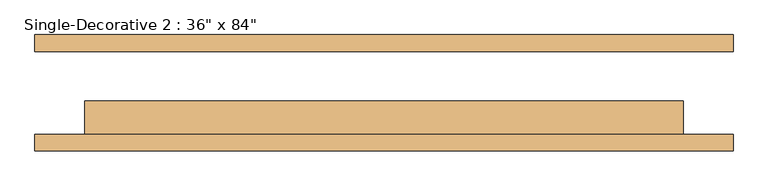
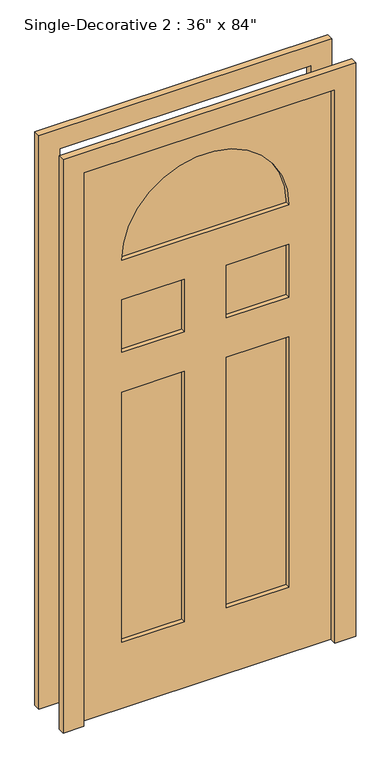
"""IFC4 building model written with IfcOpenShell, lengths in millimetres: door geometry."""

from ifc_helpers import new_model, si_unit, point, frame, frame_2d, origin, place, context, project, spatial, polyline, circle_curve, trimmed, segment, composite_curve, outline, extrude, source, transform, mapped, element, save


def door_829da954(model_context):
    return source(origin(), model_context, "Body", "SweptSolid", [
        extrude(outline(polyline([(0.0, -457.2), (0.0, 457.2), (2133.6, 457.2), (2133.6, -457.2), (0.0, -457.2)]), holes=[polyline([(254.0, -76.2), (254.0, -304.8), (1219.2, -304.8), (1219.2, -76.2), (254.0, -76.2)]), polyline([(254.0, 304.8), (254.0, 76.2), (1219.2, 76.2), (1219.2, 304.8), (254.0, 304.8)]), polyline([(1371.6, 76.2), (1574.8, 76.2), (1574.8, 304.8), (1371.6, 304.8), (1371.6, 76.2)]), polyline([(1371.6, -304.8), (1574.8, -304.8), (1574.8, -76.2), (1371.6, -76.2), (1371.6, -304.8)]), composite_curve([segment(polyline([(1727.2, 304.8), (1727.2, -304.8)]), True, "CONTINUOUS"), segment(trimmed(circle_curve(frame_2d((1727.2, 0.0)), 304.8), [point((1727.2, -304.8))], [point((1727.2, 304.8))], True, "CARTESIAN"), True, "CONTINUOUS")], self_intersect=False)]), frame((0.0, -63.5, 0.0), z_axis=(0.0, 1.0, 0.0), x_axis=(0.0, 0.0, 1.0)), (0.0, 0.0, 1.0), 50.8),
        extrude(outline(polyline([(0.0, 457.2), (0.0, 533.4), (2209.8, 533.4), (2209.8, -533.4), (0.0, -533.4), (0.0, -457.2), (2133.6, -457.2), (2133.6, 457.2), (0.0, 457.2)])), frame((0.0, 63.5, 0.0), z_axis=(0.0, 1.0, 0.0), x_axis=(0.0, 0.0, 1.0)), (0.0, 0.0, 1.0), 25.4),
        extrude(outline(polyline([(2209.8, -533.4), (0.0, -533.4), (0.0, -457.2), (2133.6, -457.2), (2133.6, 457.2), (0.0, 457.2), (0.0, 533.4), (2209.8, 533.4), (2209.8, -533.4)])), frame((0.0, -88.9, 0.0), z_axis=(0.0, 1.0, 0.0), x_axis=(0.0, 0.0, 1.0)), (0.0, 0.0, 1.0), 25.4),
        extrude(outline(composite_curve([segment(polyline([(1727.2, -304.8), (1727.2, 304.8)]), True, "CONTINUOUS"), segment(trimmed(circle_curve(frame_2d((1727.2, 0.0)), 304.8), [point((1727.2, 304.8))], [point((1727.2, -304.8))], False, "CARTESIAN"), True, "CONTINUOUS")], self_intersect=False)), frame((0.0, -46.5666667, 0.0), z_axis=(0.0, 1.0, 0.0), x_axis=(0.0, 0.0, 1.0)), (0.0, 0.0, 1.0), 16.9333333),
        extrude(outline(polyline([(-304.8, -46.5666667), (-304.8, -29.6333333), (-76.2, -29.6333333), (-76.2, -46.5666667), (-304.8, -46.5666667)])), frame((0.0, 0.0, 254.0), z_axis=(0.0, 0.0, 1.0), x_axis=(1.0, 0.0, 0.0)), (0.0, 0.0, 1.0), 965.2),
        extrude(outline(polyline([(76.2, -46.5666667), (76.2, -29.6333333), (304.8, -29.6333333), (304.8, -46.5666667), (76.2, -46.5666667)])), frame((0.0, 0.0, 254.0), z_axis=(0.0, 0.0, 1.0), x_axis=(1.0, 0.0, 0.0)), (0.0, 0.0, 1.0), 965.2),
        extrude(outline(polyline([(76.2, -46.5666667), (76.2, -29.6333333), (304.8, -29.6333333), (304.8, -46.5666667), (76.2, -46.5666667)])), frame((0.0, 0.0, 1371.6), z_axis=(0.0, 0.0, 1.0), x_axis=(1.0, 0.0, 0.0)), (0.0, 0.0, 1.0), 203.2),
        extrude(outline(polyline([(-304.8, -46.5666667), (-304.8, -29.6333333), (-76.2, -29.6333333), (-76.2, -46.5666667), (-304.8, -46.5666667)])), frame((0.0, 0.0, 1371.6), z_axis=(0.0, 0.0, 1.0), x_axis=(1.0, 0.0, 0.0)), (0.0, 0.0, 1.0), 203.2),
    ])


if __name__ == "__main__":
    model = new_model("IFC4")
    model_context = context("Model", 3, world=origin())
    ifc_project = project(units=[si_unit("LENGTHUNIT", "METRE", prefix="MILLI")], contexts=[model_context])
    site = spatial("IfcSite", under=ifc_project)
    building = spatial("IfcBuilding", under=site)
    placement = place(None, origin())
    door_shape = door_829da954(model_context)
    element("IfcDoor", 1, ObjectType="Single-Decorative 2 : 36\" x 84\"", at=placement, inside=building, context=model_context, shape_type="MappedRepresentation", body=[
        mapped(door_shape, transform((0.0, 0.0, 0.0), x_axis=(1.0, 0.0, 0.0), y_axis=(0.0, 1.0, 0.0), z_axis=(0.0, 0.0, 1.0))),
    ])
    save(model, "model.ifc")
